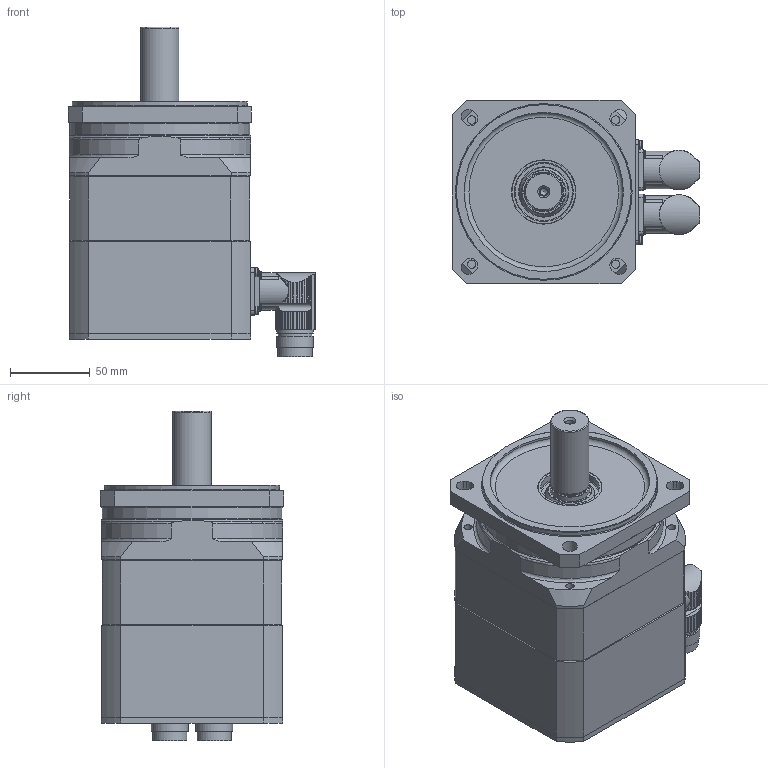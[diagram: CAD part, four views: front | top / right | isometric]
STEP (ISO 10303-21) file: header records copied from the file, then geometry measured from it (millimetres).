
FILE_DESCRIPTION(/* description */ (''),/* implementation_level */ '2;1');
FILE_NAME(/* name */ 'KSY 464 D-R4',/* time_stamp */ '2007-01-03T12:49:24+01:00',/* author */ (''),/* organization */ (''),/* preprocessor_version */ 'ST-DEVELOPER v8',/* originating_system */ 'UNIGRAPHICS SOLUTIONS - UNIGRAPHICS 18.0',/* authorisation */ '');
FILE_SCHEMA (('AUTOMOTIVE_DESIGN { 1 2 10303 214 0 1 1 1 }'));
Length unit declared in the file: millimetre
Products named in the file (14): Gehaeuse_SY4_40_0; Rotor_SY4_0; 114099_0; 064225_0; 114098_0; iso2009-m4x10_A; DIN3760_org_A25x40x7_0; iso1580-m2.5x6_A; iso1580-m3x10_A; din128-3_A; 014250_0; 014257_0; 064205Z_0; KSY464D-R4_0
Assembly tree (26 placements, depth 2):
  KSY464D-R4_0
    064205Z_0
    014257_0
    014250_0
    din128-3_A
    iso1580-m3x10_A  x4
    iso1580-m2.5x6_A  x8
    DIN3760_org_A25x40x7_0
    iso2009-m4x10_A  x4
    114098_0
    064225_0
    114099_0
    Rotor_SY4_0
    Gehaeuse_SY4_40_0
Bounding box: 155.49 x 115 x 207.15 mm (x, y, z)
Volume: 833338.4 mm3; surface area: 248679.2 mm2
Topology: 26 solids, 26 shells, 937 faces, 2456 edges, 1607 vertices
Faces by surface type: cylinder 515, plane 273, cone 84, torus 45, sphere 20
Full cylindrical faces by diameter (mm): 1 x16, 1.948 x8, 2 x4, 2.135 x8, 2.387 x4, 2.459 x4, 2.5 x8, 2.7 x8, 3 x4, 3.432 x7, 3.5 x4, 4 x4, 4.351 x1, 4.5 x7, 5.188 x4, 5.5 x1, 6.5 x4, 8 x7, 14 x5, 18 x4, 20 x6, 21 x2, 21.5 x2, 23 x5, 23.52 x1, 24 x1, 25 x2, 25.3 x1, 33 x1, 36.83 x1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
Entity records: 24321 total; most frequent: CARTESIAN_POINT 5631, DIRECTION 3825, ORIENTED_EDGE 3514, EDGE_CURVE 1757, AXIS2_PLACEMENT_3D 1617, VERTEX_POINT 1270, EDGE_LOOP 1144, CIRCLE 809
